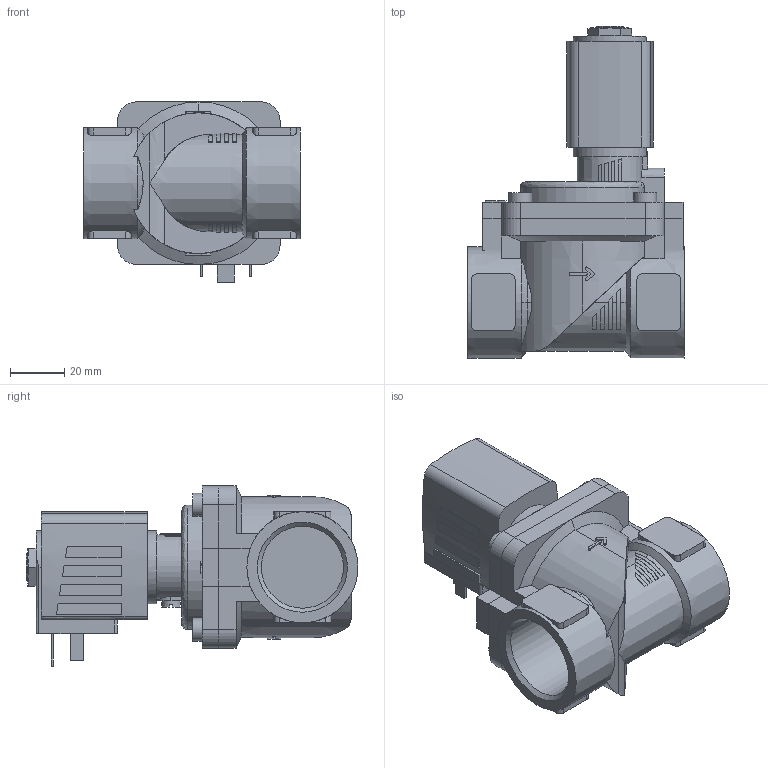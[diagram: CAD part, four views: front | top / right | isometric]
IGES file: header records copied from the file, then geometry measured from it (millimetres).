
Start section: Data from Parasolid IGES Translator 26.0.171, Copyright(c) 2006 Siemens PLM Software. All Rights Reserved.
Global section: file name: 6281-322400-2_2-Way_Solenoid_Valve__Servo-assisted__General_Purpose.igs; native system: By Siemens PLM Incorporated; preprocessor: XPlus GENERIC/IGES 26.0.171; author: Noname; organization: Noname; date: 20240609.233922; units: millimetre
Bounding box: 80 x 122.5 x 66.5 mm (x, y, z)
Surface area: 46147.7 mm2 (no closed solid volume)
Topology: 0 solids, 0 shells, 358 faces, 1880 edges, 1873 vertices
Faces by surface type: extrusion 234, revolution 124
